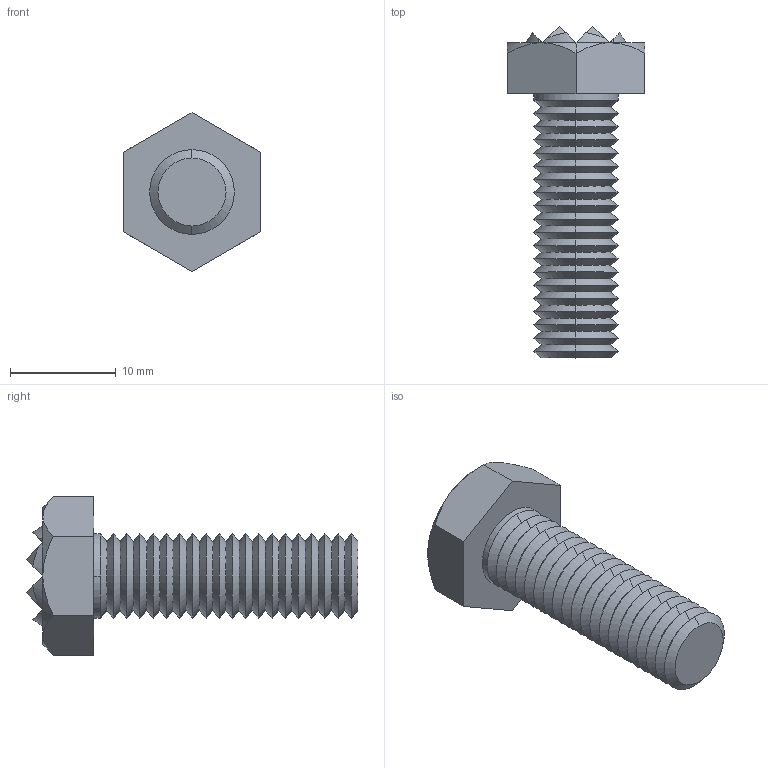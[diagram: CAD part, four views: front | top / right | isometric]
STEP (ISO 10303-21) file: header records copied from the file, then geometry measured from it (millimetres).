
FILE_DESCRIPTION (( 'STEP AP203' ), '1' );
FILE_NAME ('35400.W0004.step', '2017-07-03T07:20:32', ( 'User' ), ( '' ), 'SwSTEP 2.0', 'SolidWorks 2009', '' );
FILE_SCHEMA (( 'CONFIG_CONTROL_DESIGN' ));
Length unit declared in the file: millimetre
Products named in the file (1): 35400.W0004
Bounding box: 13 x 31.4 x 15.01 mm (x, y, z)
Volume: 1765.1 mm3; surface area: 1417.1 mm2
Topology: 1 solids, 1 shells, 156 faces, 300 edges, 148 vertices
Faces by surface type: cone 97, plane 57, cylinder 2
Entity records: 3888 total; most frequent: CARTESIAN_POINT 777, DIRECTION 673, ORIENTED_EDGE 600, EDGE_CURVE 300, AXIS2_PLACEMENT_3D 260, EDGE_LOOP 158, ADVANCED_FACE 156, FACE_OUTER_BOUND 156
